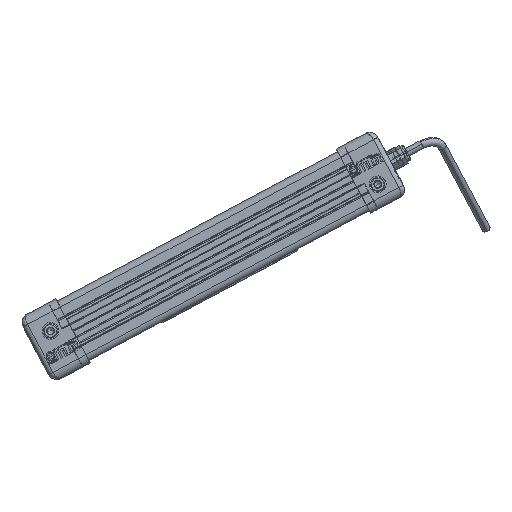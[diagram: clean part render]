
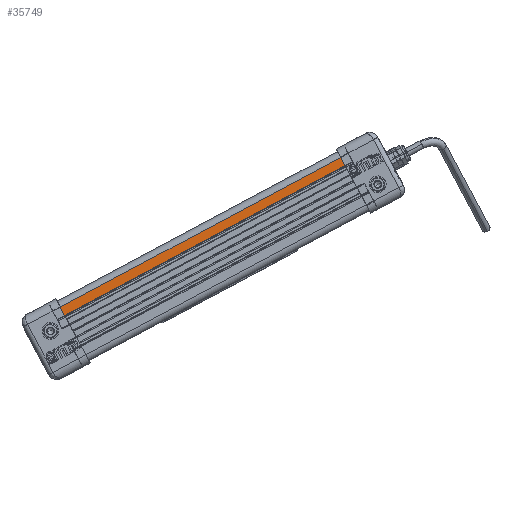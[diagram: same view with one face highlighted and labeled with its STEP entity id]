
A CAD part, front view. The second image highlights one B-rep face of the part: STEP entity #35749.
In plain terms, the highlighted planar face has unit normal (0, -1, 0) as drawn and (-1, 0, 0) by its records, which use the part's own axes.
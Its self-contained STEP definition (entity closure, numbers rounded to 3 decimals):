
#662 = VERTEX_POINT ( 'NONE', #1713 ) ;
#833 = EDGE_CURVE ( 'NONE', #35448, #20272, #29730, .T. ) ;
#1353 = ORIENTED_EDGE ( 'NONE', *, *, #833, .T. ) ;
#1713 = CARTESIAN_POINT ( 'NONE',  ( -9., 16., 199. ) ) ;
#3637 = ORIENTED_EDGE ( 'NONE', *, *, #56576, .F. ) ;
#4899 = PLANE ( 'NONE',  #45627 ) ;
#7839 = DIRECTION ( 'NONE',  ( 0., -1., 0. ) ) ;
#10677 = EDGE_CURVE ( 'NONE', #34372, #20272, #18908, .T. ) ;
#14546 = DIRECTION ( 'NONE',  ( 0., 0., -1. ) ) ;
#14948 = EDGE_LOOP ( 'NONE', ( #1353, #52887, #3637, #42528 ) ) ;
#15225 = VECTOR ( 'NONE', #56497, 1000. ) ;
#17640 = DIRECTION ( 'NONE',  ( 0., 0., -1. ) ) ;
#18908 = LINE ( 'NONE', #36722, #38760 ) ;
#20272 = VERTEX_POINT ( 'NONE', #35895 ) ;
#22709 = DIRECTION ( 'NONE',  ( 0., 1., 0. ) ) ;
#23582 = FACE_OUTER_BOUND ( 'NONE', #14948, .T. ) ;
#25709 = CARTESIAN_POINT ( 'NONE',  ( -9., 16., 0. ) ) ;
#29730 = LINE ( 'NONE', #47517, #36068 ) ;
#31190 = DIRECTION ( 'NONE',  ( 1., 0., 0. ) ) ;
#34372 = VERTEX_POINT ( 'NONE', #56230 ) ;
#35448 = VERTEX_POINT ( 'NONE', #25709 ) ;
#35749 = ADVANCED_FACE ( 'NONE', ( #23582 ), #4899, .F. ) ;
#35895 = CARTESIAN_POINT ( 'NONE',  ( -9., 10.5, 0. ) ) ;
#36068 = VECTOR ( 'NONE', #7839, 1000. ) ;
#36722 = CARTESIAN_POINT ( 'NONE',  ( -9., 10.5, 199. ) ) ;
#38760 = VECTOR ( 'NONE', #14546, 1000. ) ;
#39816 = LINE ( 'NONE', #49734, #44697 ) ;
#40794 = CARTESIAN_POINT ( 'NONE',  ( -9., 16., 199. ) ) ;
#42528 = ORIENTED_EDGE ( 'NONE', *, *, #49758, .T. ) ;
#44697 = VECTOR ( 'NONE', #17640, 1000. ) ;
#45627 = AXIS2_PLACEMENT_3D ( 'NONE', #40794, #31190, #22709 ) ;
#47180 = CARTESIAN_POINT ( 'NONE',  ( -9., 16., 199. ) ) ;
#47517 = CARTESIAN_POINT ( 'NONE',  ( -9., 16., 0. ) ) ;
#49734 = CARTESIAN_POINT ( 'NONE',  ( -9., 16., 199. ) ) ;
#49758 = EDGE_CURVE ( 'NONE', #662, #35448, #39816, .T. ) ;
#51842 = LINE ( 'NONE', #47180, #15225 ) ;
#52887 = ORIENTED_EDGE ( 'NONE', *, *, #10677, .F. ) ;
#56230 = CARTESIAN_POINT ( 'NONE',  ( -9., 10.5, 199. ) ) ;
#56497 = DIRECTION ( 'NONE',  ( 0., -1., 0. ) ) ;
#56576 = EDGE_CURVE ( 'NONE', #662, #34372, #51842, .T. ) ;
